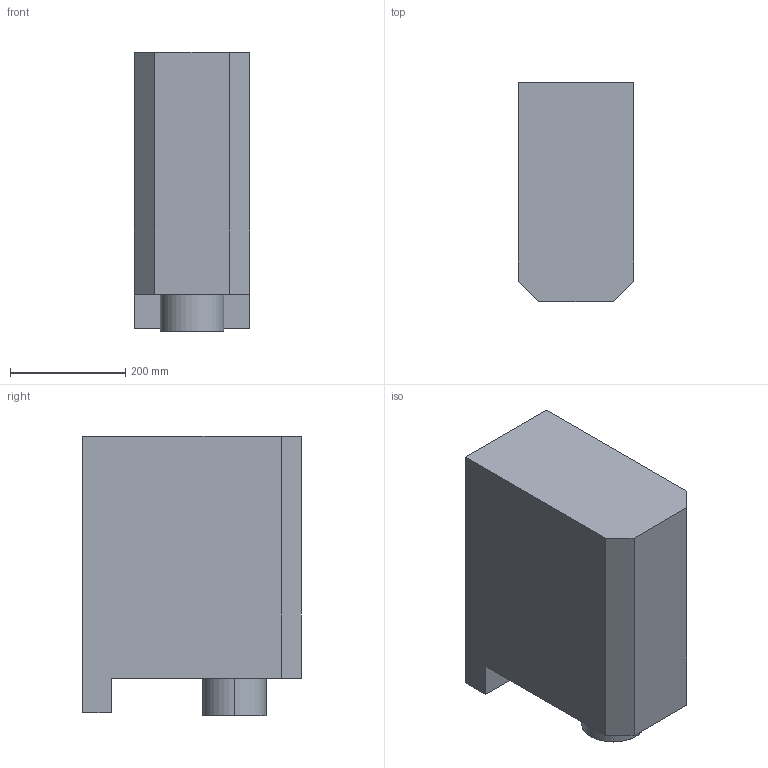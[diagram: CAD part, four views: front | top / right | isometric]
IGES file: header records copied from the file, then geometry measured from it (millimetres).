
Start section: SolidWorks IGES FILE using analytic representation for surfaces
Global section: file name: C:\Documents and Settings\admin-prod\Mes documents\Cu-3axes-realmeca-sw2003\cu-3axes-real-axeZ.IGS; native system: SolidWorks 2003 by SolidWorks Corporation; preprocessor: Version 5.3; author: admin-prod; date: 070509.135510; units: millimetre
Bounding box: 200 x 380 x 485 mm (x, y, z)
Surface area: 671990.3 mm2 (no closed solid volume)
Topology: 0 solids, 0 shells, 13 faces, 184 edges, 184 vertices
Faces by surface type: bspline 11, revolution 2
